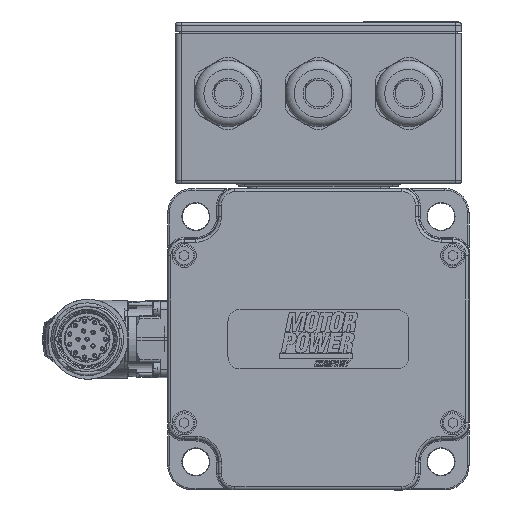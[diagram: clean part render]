
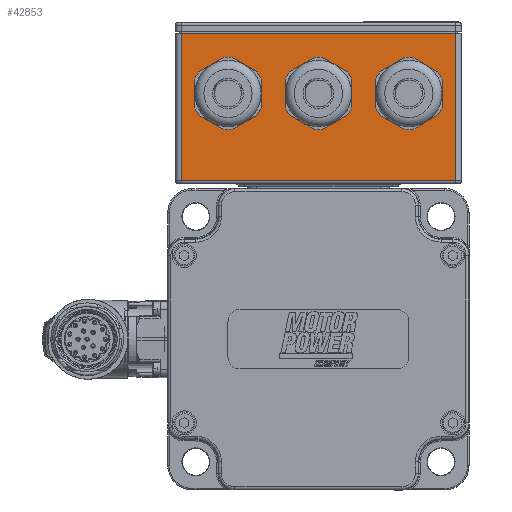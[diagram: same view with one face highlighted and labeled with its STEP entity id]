
A CAD part, front view. The second image highlights one B-rep face of the part: STEP entity #42853.
In plain terms, the highlighted planar face has unit normal (0, -1, 0).
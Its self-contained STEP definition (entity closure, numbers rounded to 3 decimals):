
#3178=LINE('',#67311,#5187);
#3194=LINE('',#67380,#5203);
#3195=LINE('',#67382,#5204);
#3196=LINE('',#67384,#5205);
#5187=VECTOR('',#52756,1000.);
#5203=VECTOR('',#52814,1000.);
#5204=VECTOR('',#52815,1000.);
#5205=VECTOR('',#52816,1000.);
#6286=PLANE('',#45789);
#12563=ORIENTED_EDGE('',*,*,#18351,.T.);
#12564=ORIENTED_EDGE('',*,*,#18352,.T.);
#12565=ORIENTED_EDGE('',*,*,#18353,.T.);
#12566=ORIENTED_EDGE('',*,*,#18354,.T.);
#12567=ORIENTED_EDGE('',*,*,#18355,.T.);
#12568=ORIENTED_EDGE('',*,*,#18356,.T.);
#12569=ORIENTED_EDGE('',*,*,#18320,.T.);
#18320=EDGE_CURVE('',#21761,#21760,#3178,.T.);
#18351=EDGE_CURVE('',#21790,#21790,#23617,.T.);
#18352=EDGE_CURVE('',#21791,#21791,#23618,.T.);
#18353=EDGE_CURVE('',#21792,#21792,#23619,.T.);
#18354=EDGE_CURVE('',#21760,#21793,#3194,.T.);
#18355=EDGE_CURVE('',#21793,#21794,#3195,.F.);
#18356=EDGE_CURVE('',#21794,#21761,#3196,.F.);
#21760=VERTEX_POINT('',#67310);
#21761=VERTEX_POINT('',#67312);
#21790=VERTEX_POINT('',#67375);
#21791=VERTEX_POINT('',#67377);
#21792=VERTEX_POINT('',#67379);
#21793=VERTEX_POINT('',#67381);
#21794=VERTEX_POINT('',#67383);
#23617=CIRCLE('',#45790,8.63);
#23618=CIRCLE('',#45791,8.63);
#23619=CIRCLE('',#45792,8.63);
#25808=EDGE_LOOP('',(#12563));
#25809=EDGE_LOOP('',(#12564));
#25810=EDGE_LOOP('',(#12565));
#25811=EDGE_LOOP('',(#12566,#12567,#12568,#12569));
#28414=FACE_BOUND('',#25808,.T.);
#28415=FACE_BOUND('',#25809,.T.);
#28416=FACE_BOUND('',#25810,.T.);
#28417=FACE_BOUND('',#25811,.T.);
#42853=ADVANCED_FACE('',(#28414,#28415,#28416,#28417),#6286,.T.);
#45789=AXIS2_PLACEMENT_3D('',#67373,#52806,#52807);
#45790=AXIS2_PLACEMENT_3D('',#67374,#52808,#52809);
#45791=AXIS2_PLACEMENT_3D('',#67376,#52810,#52811);
#45792=AXIS2_PLACEMENT_3D('',#67378,#52812,#52813);
#52756=DIRECTION('',(-1.,0.,0.));
#52806=DIRECTION('',(0.,-1.,0.));
#52807=DIRECTION('',(1.,0.,0.));
#52808=DIRECTION('',(0.,1.,0.));
#52809=DIRECTION('',(1.,0.,0.));
#52810=DIRECTION('',(0.,1.,0.));
#52811=DIRECTION('',(1.,0.,0.));
#52812=DIRECTION('',(0.,1.,0.));
#52813=DIRECTION('',(1.,0.,0.));
#52814=DIRECTION('',(0.,0.,-1.));
#52815=DIRECTION('',(-1.,0.,0.));
#52816=DIRECTION('',(0.,0.,-1.));
#67310=CARTESIAN_POINT('',(-45.5,-60.,50.));
#67311=CARTESIAN_POINT('',(47.5,-60.,50.));
#67312=CARTESIAN_POINT('',(45.5,-60.,50.));
#67373=CARTESIAN_POINT('',(47.5,-60.,50.));
#67374=CARTESIAN_POINT('',(30.,-60.,30.));
#67375=CARTESIAN_POINT('',(38.63,-60.,30.));
#67376=CARTESIAN_POINT('',(0.,-60.,30.));
#67377=CARTESIAN_POINT('',(8.63,-60.,30.));
#67378=CARTESIAN_POINT('',(-30.,-60.,30.));
#67379=CARTESIAN_POINT('',(-21.37,-60.,30.));
#67380=CARTESIAN_POINT('',(-45.5,-60.,50.));
#67381=CARTESIAN_POINT('',(-45.5,-60.,1.));
#67382=CARTESIAN_POINT('',(47.5,-60.,1.));
#67383=CARTESIAN_POINT('',(45.5,-60.,1.));
#67384=CARTESIAN_POINT('',(45.5,-60.,50.));
